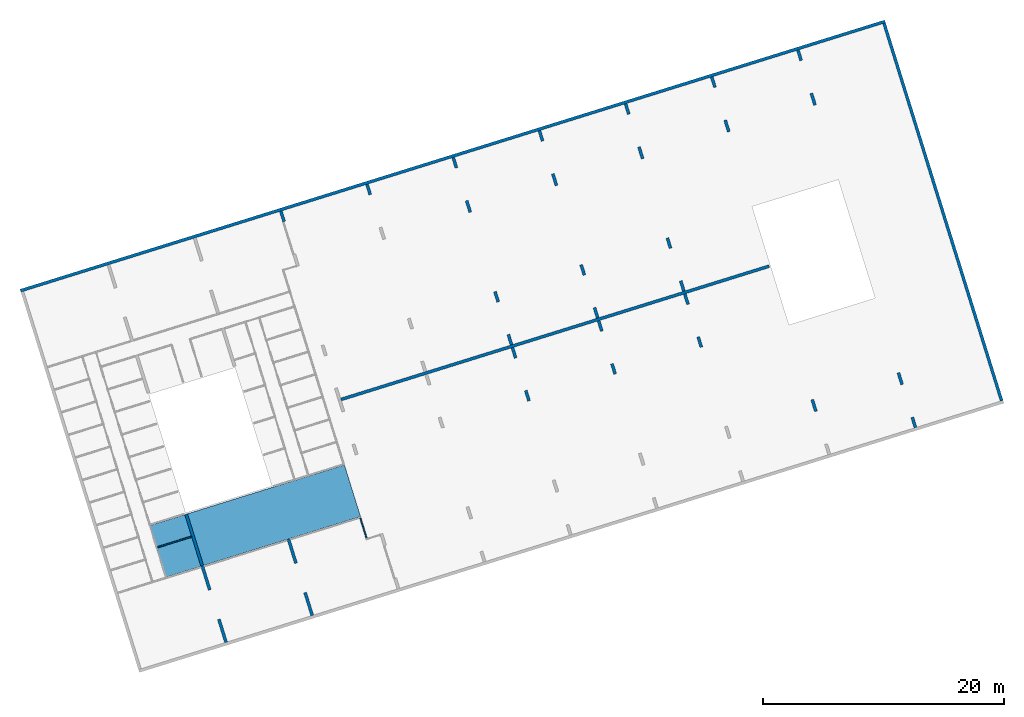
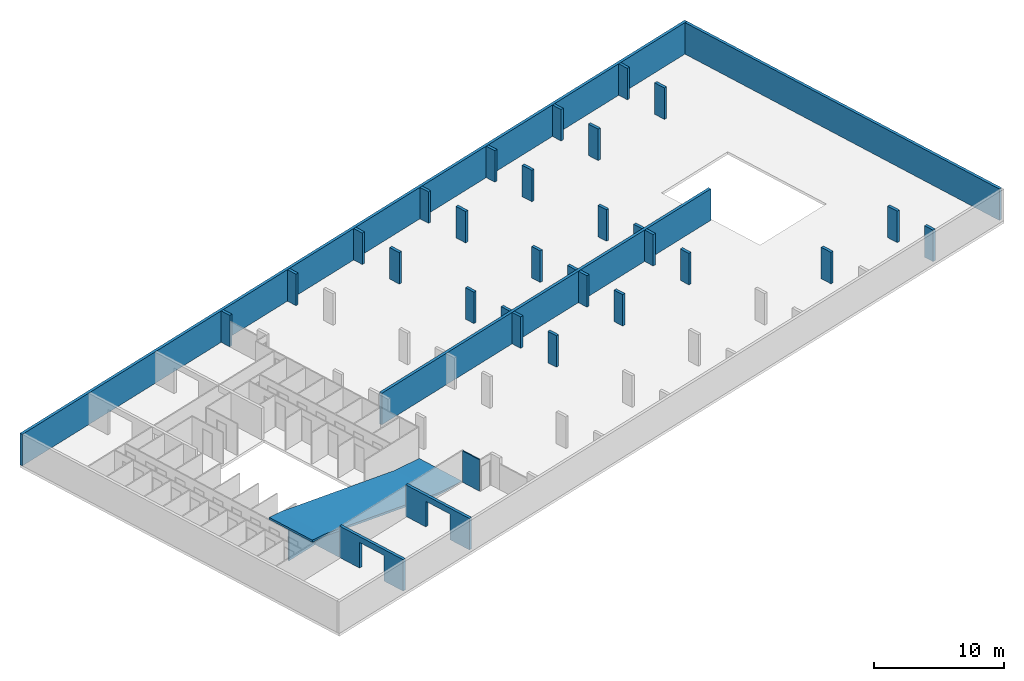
# One storey, part 3 of 7: 35 walls, 1 ramp, 3 openings.
"""IFC4 building model written with IfcOpenShell, lengths in metres."""

from ifc_helpers import new_model, entity, si_unit, converted_unit, direction, frame, origin, place, context, subcontext, project, spatial, indexed_curve, outline, extrude, polygons, material, type_object, element, save


model = new_model("IFC4")

# Units and contexts
model_context = context("Model", 3, precision=1e-05, world=origin(), true_north=direction((6.12323399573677e-17, 1.0)))
body_context = subcontext(model_context, "Body", "Model", "MODEL_VIEW")
ifc_project = project(units=[si_unit("LENGTHUNIT", "METRE"), si_unit("AREAUNIT", "SQUARE_METRE"), si_unit("VOLUMEUNIT", "CUBIC_METRE"), converted_unit("PLANEANGLEUNIT", "DEGREE", entity("IfcPlaneAngleMeasure", 0.0174532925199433), si_unit("PLANEANGLEUNIT", "RADIAN"), dimensions=[0, 0, 0, 0, 0, 0, 0])], contexts=[model_context])

# Site, building, storey
site_placement = place(None, frame((13.1347999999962, 11.9886000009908, 0.0), z_axis=(0.0, 0.0, 1.0), x_axis=(0.954770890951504, 0.297342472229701, 0.0)))
site = spatial("IfcSite", under=ifc_project, at=site_placement, Name="Schiehaven", CompositionType="ELEMENT")
building_placement = place(site_placement, origin())
building = spatial("IfcBuilding", under=site, at=building_placement, Name="VORM huis", CompositionType="ELEMENT")
storey_placement = place(building_placement, frame((0.0, 0.0, -3.2)))
storey = spatial("IfcBuildingStorey", under=building, at=storey_placement, Name="-1 kelder", CompositionType="ELEMENT", Elevation=-3.2)

# Walls
ifc_material_1 = material(Name="beton_gewapend_ihw", Category="Miscellaneous")
wall_type_1 = type_object("IfcWallType", Name="Basic Wall:28_WA_skelet_keerwand 250mm_gen", PredefinedType="STANDARD")
wall_1_placement = place(storey_placement, frame((80.1250000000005, 33.5999999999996, 0.0), z_axis=(0.0, 0.0, 1.0), x_axis=(-1.0, 0.0, 0.0)))
element("IfcWall", 1, at=wall_1_placement, inside=storey, type_object=wall_type_1, material=ifc_material_1, Name="Constructieve keerwand", ObjectType="Wand", PredefinedType="NOTDEFINED", context=body_context, shape_type="SweptSolid", body=[
    extrude(outline(indexed_curve([(75.2500000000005, 0.125000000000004), (-8.09239413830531e-16, 0.125000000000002), (8.09239413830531e-16, -0.125000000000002), (75.2500000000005, -0.125), (75.2500000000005, 0.125000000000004)], self_intersect=False)), origin(), (0.0, 0.0, 1.0), 2.95),
])
wall_2_placement = place(storey_placement, frame((80.0, 0.624999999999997, 0.0), z_axis=(0.0, 0.0, 1.0), x_axis=(0.0, 1.0, 0.0)))
element("IfcWall", 2, at=wall_2_placement, inside=storey, type_object=wall_type_1, material=ifc_material_1, Name="Constructieve keerwand", ObjectType="Wand", PredefinedType="NOTDEFINED", context=body_context, shape_type="SweptSolid", body=[
    extrude(outline(indexed_curve([(32.8499999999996, 0.125000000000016), (-2.9990862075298e-16, 0.125000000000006), (2.9990862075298e-16, -0.125000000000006), (32.8499999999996, -0.124999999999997), (32.8499999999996, 0.125000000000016)], self_intersect=False)), origin(), (0.0, 0.0, 1.0), 2.95),
])
wall_type_2 = type_object("IfcWallType", Name="Basic Wall:28_WA_skelet_wand 250mm_gen", PredefinedType="STANDARD")
wall_3_placement = place(storey_placement, frame((27.6250000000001, 17.0499999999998, 0.0)))
element("IfcWall", 3, at=wall_3_placement, inside=storey, type_object=wall_type_2, material=ifc_material_1, Name="Constructieve wand", ObjectType="Wand", PredefinedType="NOTDEFINED", context=body_context, shape_type="SweptSolid", body=[
    extrude(outline(indexed_curve([(37.25, 0.125), (0.0, 0.125), (0.0, -0.125), (37.25, -0.125), (37.25, 0.125)], self_intersect=False)), origin(), (0.0, 0.0, 1.0), 2.95),
])

# Wall, opening
wall_4_placement = place(storey_placement, frame((12.5, 0.624999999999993, 0.0), z_axis=(0.0, 0.0, 1.0), x_axis=(0.0, 1.0, 0.0)))
wall_4 = element("IfcWall", 4, at=wall_4_placement, inside=storey, type_object=wall_type_2, material=ifc_material_1, Name="Constructieve wand", ObjectType="Wand", PredefinedType="NOTDEFINED", context=body_context, shape_type="Tessellation", body=[
    polygons([(6.65000000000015, -0.124999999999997, 0.0), (6.65000000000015, -0.124999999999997, 2.95), (1.21822552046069e-15, -0.124999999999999, 2.95), (1.35358391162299e-15, -0.124999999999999, 0.0), (2.00000000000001, -0.124999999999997, 0.0), (2.00000000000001, -0.124999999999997, 2.4), (4.55000000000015, -0.124999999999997, 2.4), (4.55000000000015, -0.124999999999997, 0.0), (6.65000000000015, 0.125000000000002, 2.95), (6.65000000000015, 0.125000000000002, 0.0), (4.55000000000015, 0.125000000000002, 0.0), (4.55000000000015, 0.125000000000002, 2.4), (2.00000000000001, 0.125000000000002, 2.4), (2.00000000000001, 0.125000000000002, 0.0), (1.35358391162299e-16, 0.125000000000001, 0.0), (0.0, 0.125000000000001, 2.95)], [[[1, 2, 3, 4, 5, 6, 7, 8]], [[9, 10, 11, 12, 13, 14, 15, 16]], [[4, 15, 14, 5]], [[2, 1, 10, 9]], [[3, 2, 9, 16]], [[4, 3, 16, 15]], [[6, 13, 12, 7]], [[13, 6, 5, 14]], [[7, 12, 11, 8]], [[10, 1, 8, 11]]], closed=True),
])
opening_1_placement = place(wall_4_placement, origin())
element("IfcOpeningElement", 5, at=opening_1_placement, cuts=wall_4, Name="Constructieve wand", PredefinedType="OPENING", context=body_context, shape_type="SweptSolid", body=[
    extrude(outline(indexed_curve([(-1.2, -1.27500000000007), (1.2, -1.27500000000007), (1.2, 1.27500000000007), (-1.2, 1.27500000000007), (-1.2, -1.27500000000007)], self_intersect=False)), frame((3.27500000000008, -0.124999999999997, 1.2), z_axis=(0.0, 1.0, 0.0), x_axis=(0.0, 0.0, -1.0)), (0.0, 0.0, 1.0), 0.249999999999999),
])

# Walls
wall_5_placement = place(storey_placement, frame((42.5000000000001, 12.2949999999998, 0.0), z_axis=(0.0, 0.0, 1.0), x_axis=(0.0, 1.0, 0.0)))
element("IfcWall", 6, at=wall_5_placement, inside=storey, type_object=wall_type_2, material=ifc_material_1, Name="Constructieve wand", ObjectType="Wand", PredefinedType="NOTDEFINED", context=body_context, shape_type="SweptSolid", body=[
    extrude(outline(indexed_curve([(0.900000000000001, 0.124999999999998), (0.0, 0.124999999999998), (0.0, -0.124999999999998), (0.900000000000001, -0.124999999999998), (0.900000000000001, 0.124999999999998)], self_intersect=False)), origin(), (0.0, 0.0, 1.0), 2.95),
])
wall_6_placement = place(storey_placement, frame((42.5000000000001, 16.0249999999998, 0.0), z_axis=(0.0, 0.0, 1.0), x_axis=(0.0, 1.0, 0.0)))
element("IfcWall", 7, at=wall_6_placement, inside=storey, type_object=wall_type_2, material=ifc_material_1, Name="Constructieve wand", ObjectType="Wand", PredefinedType="NOTDEFINED", context=body_context, shape_type="SweptSolid", body=[
    extrude(outline(indexed_curve([(0.900000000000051, 0.124999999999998), (0.0, 0.124999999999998), (0.0, -0.124999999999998), (0.900000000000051, -0.124999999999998), (0.900000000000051, 0.124999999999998)], self_intersect=False)), origin(), (0.0, 0.0, 1.0), 2.95),
])
wall_7_placement = place(storey_placement, frame((50.0, 12.2949999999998, 0.0), z_axis=(0.0, 0.0, 1.0), x_axis=(0.0, 1.0, 0.0)))
element("IfcWall", 8, at=wall_7_placement, inside=storey, type_object=wall_type_2, material=ifc_material_1, Name="Constructieve wand", ObjectType="Wand", PredefinedType="NOTDEFINED", context=body_context, shape_type="SweptSolid", body=[
    extrude(outline(indexed_curve([(0.900000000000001, 0.124999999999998), (0.0, 0.124999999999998), (0.0, -0.124999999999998), (0.900000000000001, -0.124999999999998), (0.900000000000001, 0.124999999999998)], self_intersect=False)), origin(), (0.0, 0.0, 1.0), 2.95),
])
wall_8_placement = place(storey_placement, frame((50.0, 16.0249999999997, 0.0), z_axis=(0.0, 0.0, 1.0), x_axis=(0.0, 1.0, 0.0)))
element("IfcWall", 9, at=wall_8_placement, inside=storey, type_object=wall_type_2, material=ifc_material_1, Name="Constructieve wand", ObjectType="Wand", PredefinedType="NOTDEFINED", context=body_context, shape_type="SweptSolid", body=[
    extrude(outline(indexed_curve([(0.900000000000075, 0.124999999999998), (0.0, 0.124999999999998), (0.0, -0.124999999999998), (0.900000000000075, -0.124999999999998), (0.900000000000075, 0.124999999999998)], self_intersect=False)), origin(), (0.0, 0.0, 1.0), 2.95),
])
wall_9_placement = place(storey_placement, frame((57.5, 12.2949999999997, 0.0), z_axis=(0.0, 0.0, 1.0), x_axis=(0.0, 1.0, 0.0)))
element("IfcWall", 10, at=wall_9_placement, inside=storey, type_object=wall_type_2, material=ifc_material_1, Name="Constructieve wand", ObjectType="Wand", PredefinedType="NOTDEFINED", context=body_context, shape_type="SweptSolid", body=[
    extrude(outline(indexed_curve([(0.900000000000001, 0.124999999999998), (0.0, 0.124999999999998), (0.0, -0.124999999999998), (0.900000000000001, -0.124999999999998), (0.900000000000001, 0.124999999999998)], self_intersect=False)), origin(), (0.0, 0.0, 1.0), 2.95),
])
wall_10_placement = place(storey_placement, frame((57.5, 16.0249999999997, 0.0), z_axis=(0.0, 0.0, 1.0), x_axis=(0.0, 1.0, 0.0)))
element("IfcWall", 11, at=wall_10_placement, inside=storey, type_object=wall_type_2, material=ifc_material_1, Name="Constructieve wand", ObjectType="Wand", PredefinedType="NOTDEFINED", context=body_context, shape_type="SweptSolid", body=[
    extrude(outline(indexed_curve([(0.900000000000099, 0.124999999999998), (0.0, 0.124999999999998), (0.0, -0.124999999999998), (0.900000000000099, -0.124999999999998), (0.900000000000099, 0.124999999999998)], self_intersect=False)), origin(), (0.0, 0.0, 1.0), 2.95),
])
wall_11_placement = place(storey_placement, frame((65.0, 4.37499999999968, 0.0), z_axis=(0.0, 0.0, 1.0), x_axis=(0.0, 1.0, 0.0)))
element("IfcWall", 12, at=wall_11_placement, inside=storey, type_object=wall_type_2, material=ifc_material_1, Name="Constructieve wand", ObjectType="Wand", PredefinedType="NOTDEFINED", context=body_context, shape_type="SweptSolid", body=[
    extrude(outline(indexed_curve([(1.02499999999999, 0.124999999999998), (0.0, 0.124999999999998), (0.0, -0.124999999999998), (1.02499999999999, -0.124999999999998), (1.02499999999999, 0.124999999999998)], self_intersect=False)), origin(), (0.0, 0.0, 1.0), 2.95),
])
wall_12_placement = place(storey_placement, frame((42.5000000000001, 21.8050000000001, 0.0), z_axis=(0.0, 0.0, 1.0), x_axis=(0.0, -1.0, 0.0)))
element("IfcWall", 13, at=wall_12_placement, inside=storey, type_object=wall_type_2, material=ifc_material_1, Name="Constructieve wand", ObjectType="Wand", PredefinedType="NOTDEFINED", context=body_context, shape_type="SweptSolid", body=[
    extrude(outline(indexed_curve([(0.899999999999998, 0.125000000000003), (-8.09239413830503e-16, 0.124999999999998), (8.09239413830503e-16, -0.124999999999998), (0.9, -0.124999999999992), (0.899999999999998, 0.125000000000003)], self_intersect=False)), origin(), (0.0, 0.0, 1.0), 2.95),
])
wall_13_placement = place(storey_placement, frame((42.5000000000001, 18.0750000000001, 0.0), z_axis=(0.0, 0.0, 1.0), x_axis=(0.0, -1.0, 0.0)))
element("IfcWall", 14, at=wall_13_placement, inside=storey, type_object=wall_type_2, material=ifc_material_1, Name="Constructieve wand", ObjectType="Wand", PredefinedType="NOTDEFINED", context=body_context, shape_type="SweptSolid", body=[
    extrude(outline(indexed_curve([(0.900000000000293, 0.125000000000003), (-8.09239413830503e-16, 0.124999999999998), (8.09239413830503e-16, -0.124999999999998), (0.900000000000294, -0.124999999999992), (0.900000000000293, 0.125000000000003)], self_intersect=False)), origin(), (0.0, 0.0, 1.0), 2.95),
])
wall_14_placement = place(storey_placement, frame((42.5000000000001, 29.7250000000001, 0.0), z_axis=(0.0, 0.0, 1.0), x_axis=(0.0, -1.0, 0.0)))
element("IfcWall", 15, at=wall_14_placement, inside=storey, type_object=wall_type_2, material=ifc_material_1, Name="Constructieve wand", ObjectType="Wand", PredefinedType="NOTDEFINED", context=body_context, shape_type="SweptSolid", body=[
    extrude(outline(indexed_curve([(1.025, 0.124999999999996), (-8.09239413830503e-16, 0.124999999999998), (8.09239413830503e-16, -0.124999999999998), (1.025, -0.125), (1.025, 0.124999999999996)], self_intersect=False)), origin(), (0.0, 0.0, 1.0), 2.95),
])
wall_15_placement = place(storey_placement, frame((50.0, 21.8050000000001, 0.0), z_axis=(0.0, 0.0, 1.0), x_axis=(0.0, -1.0, 0.0)))
element("IfcWall", 16, at=wall_15_placement, inside=storey, type_object=wall_type_2, material=ifc_material_1, Name="Constructieve wand", ObjectType="Wand", PredefinedType="NOTDEFINED", context=body_context, shape_type="SweptSolid", body=[
    extrude(outline(indexed_curve([(0.900000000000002, 0.125000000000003), (-8.09239413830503e-16, 0.124999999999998), (8.09239413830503e-16, -0.124999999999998), (0.900000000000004, -0.124999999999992), (0.900000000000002, 0.125000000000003)], self_intersect=False)), origin(), (0.0, 0.0, 1.0), 2.95),
])
wall_16_placement = place(storey_placement, frame((50.0, 18.0750000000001, 0.0), z_axis=(0.0, 0.0, 1.0), x_axis=(0.0, -1.0, 0.0)))
element("IfcWall", 17, at=wall_16_placement, inside=storey, type_object=wall_type_2, material=ifc_material_1, Name="Constructieve wand", ObjectType="Wand", PredefinedType="NOTDEFINED", context=body_context, shape_type="SweptSolid", body=[
    extrude(outline(indexed_curve([(0.900000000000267, 0.125000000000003), (-8.09239413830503e-16, 0.124999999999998), (8.09239413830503e-16, -0.124999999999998), (0.900000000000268, -0.124999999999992), (0.900000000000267, 0.125000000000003)], self_intersect=False)), origin(), (0.0, 0.0, 1.0), 2.95),
])
wall_17_placement = place(storey_placement, frame((50.0, 29.7250000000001, 0.0), z_axis=(0.0, 0.0, 1.0), x_axis=(0.0, -1.0, 0.0)))
element("IfcWall", 18, at=wall_17_placement, inside=storey, type_object=wall_type_2, material=ifc_material_1, Name="Constructieve wand", ObjectType="Wand", PredefinedType="NOTDEFINED", context=body_context, shape_type="SweptSolid", body=[
    extrude(outline(indexed_curve([(1.02499999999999, 0.124999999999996), (-8.09239413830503e-16, 0.124999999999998), (8.09239413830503e-16, -0.124999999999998), (1.02499999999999, -0.125), (1.02499999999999, 0.124999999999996)], self_intersect=False)), origin(), (0.0, 0.0, 1.0), 2.95),
])
wall_18_placement = place(storey_placement, frame((57.5, 21.805, 0.0), z_axis=(0.0, 0.0, 1.0), x_axis=(0.0, -1.0, 0.0)))
element("IfcWall", 19, at=wall_18_placement, inside=storey, type_object=wall_type_2, material=ifc_material_1, Name="Constructieve wand", ObjectType="Wand", PredefinedType="NOTDEFINED", context=body_context, shape_type="SweptSolid", body=[
    extrude(outline(indexed_curve([(0.899999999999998, 0.125000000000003), (-8.09239413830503e-16, 0.124999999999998), (8.09239413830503e-16, -0.124999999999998), (0.9, -0.124999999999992), (0.899999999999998, 0.125000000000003)], self_intersect=False)), origin(), (0.0, 0.0, 1.0), 2.95),
])
wall_19_placement = place(storey_placement, frame((57.5, 18.0750000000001, 0.0), z_axis=(0.0, 0.0, 1.0), x_axis=(0.0, -1.0, 0.0)))
element("IfcWall", 20, at=wall_19_placement, inside=storey, type_object=wall_type_2, material=ifc_material_1, Name="Constructieve wand", ObjectType="Wand", PredefinedType="NOTDEFINED", context=body_context, shape_type="SweptSolid", body=[
    extrude(outline(indexed_curve([(0.900000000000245, 0.125000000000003), (-8.09239413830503e-16, 0.124999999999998), (8.09239413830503e-16, -0.124999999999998), (0.900000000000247, -0.124999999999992), (0.900000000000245, 0.125000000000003)], self_intersect=False)), origin(), (0.0, 0.0, 1.0), 2.95),
])
wall_20_placement = place(storey_placement, frame((57.5, 29.7250000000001, 0.0), z_axis=(0.0, 0.0, 1.0), x_axis=(0.0, -1.0, 0.0)))
element("IfcWall", 21, at=wall_20_placement, inside=storey, type_object=wall_type_2, material=ifc_material_1, Name="Constructieve wand", ObjectType="Wand", PredefinedType="NOTDEFINED", context=body_context, shape_type="SweptSolid", body=[
    extrude(outline(indexed_curve([(1.02499999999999, 0.124999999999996), (-8.09239413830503e-16, 0.124999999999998), (8.09239413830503e-16, -0.124999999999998), (1.02499999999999, -0.125), (1.02499999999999, 0.124999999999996)], self_intersect=False)), origin(), (0.0, 0.0, 1.0), 2.95),
])
wall_21_placement = place(storey_placement, frame((65.0, 29.7250000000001, 0.0), z_axis=(0.0, 0.0, 1.0), x_axis=(0.0, -1.0, 0.0)))
element("IfcWall", 22, at=wall_21_placement, inside=storey, type_object=wall_type_2, material=ifc_material_1, Name="Constructieve wand", ObjectType="Wand", PredefinedType="NOTDEFINED", context=body_context, shape_type="SweptSolid", body=[
    extrude(outline(indexed_curve([(1.025, 0.124999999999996), (-8.09239413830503e-16, 0.124999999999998), (8.09239413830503e-16, -0.124999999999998), (1.025, -0.125), (1.025, 0.124999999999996)], self_intersect=False)), origin(), (0.0, 0.0, 1.0), 2.95),
])
wall_22_placement = place(storey_placement, frame((35.0, 32.5749999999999, 0.0), z_axis=(0.0, 0.0, 1.0), x_axis=(0.0, 1.0, 0.0)))
element("IfcWall", 23, at=wall_22_placement, inside=storey, type_object=wall_type_2, material=ifc_material_1, Name="Constructieve wand", ObjectType="Wand", PredefinedType="NOTDEFINED", context=body_context, shape_type="SweptSolid", body=[
    extrude(outline(indexed_curve([(0.899999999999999, 0.125000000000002), (3.45531544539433e-17, 0.125000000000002), (-3.45531544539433e-17, -0.125000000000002), (0.899999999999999, -0.125000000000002), (0.899999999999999, 0.125000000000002)], self_intersect=False)), origin(), (0.0, 0.0, 1.0), 2.95),
])
wall_23_placement = place(storey_placement, frame((42.5000000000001, 32.5749999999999, 0.0), z_axis=(0.0, 0.0, 1.0), x_axis=(0.0, 1.0, 0.0)))
element("IfcWall", 24, at=wall_23_placement, inside=storey, type_object=wall_type_2, material=ifc_material_1, Name="Constructieve wand", ObjectType="Wand", PredefinedType="NOTDEFINED", context=body_context, shape_type="SweptSolid", body=[
    extrude(outline(indexed_curve([(0.899999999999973, 0.124999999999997), (3.45531544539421e-17, 0.124999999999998), (-3.45531544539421e-17, -0.124999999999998), (0.899999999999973, -0.124999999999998), (0.899999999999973, 0.124999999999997)], self_intersect=False)), origin(), (0.0, 0.0, 1.0), 2.95),
])
wall_24_placement = place(storey_placement, frame((50.0, 32.5749999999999, 0.0), z_axis=(0.0, 0.0, 1.0), x_axis=(0.0, 1.0, 0.0)))
element("IfcWall", 25, at=wall_24_placement, inside=storey, type_object=wall_type_2, material=ifc_material_1, Name="Constructieve wand", ObjectType="Wand", PredefinedType="NOTDEFINED", context=body_context, shape_type="SweptSolid", body=[
    extrude(outline(indexed_curve([(0.899999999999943, 0.124999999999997), (3.45531544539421e-17, 0.124999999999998), (-3.45531544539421e-17, -0.124999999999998), (0.899999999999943, -0.124999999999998), (0.899999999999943, 0.124999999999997)], self_intersect=False)), origin(), (0.0, 0.0, 1.0), 2.95),
])
wall_25_placement = place(storey_placement, frame((57.5, 32.5749999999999, 0.0), z_axis=(0.0, 0.0, 1.0), x_axis=(0.0, 1.0, 0.0)))
element("IfcWall", 26, at=wall_25_placement, inside=storey, type_object=wall_type_2, material=ifc_material_1, Name="Constructieve wand", ObjectType="Wand", PredefinedType="NOTDEFINED", context=body_context, shape_type="SweptSolid", body=[
    extrude(outline(indexed_curve([(0.899999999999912, 0.124999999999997), (3.45531544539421e-17, 0.124999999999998), (-3.45531544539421e-17, -0.124999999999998), (0.899999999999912, -0.124999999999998), (0.899999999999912, 0.124999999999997)], self_intersect=False)), origin(), (0.0, 0.0, 1.0), 2.95),
])
wall_26_placement = place(storey_placement, frame((65.0, 32.5749999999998, 0.0), z_axis=(0.0, 0.0, 1.0), x_axis=(0.0, 1.0, 0.0)))
element("IfcWall", 27, at=wall_26_placement, inside=storey, type_object=wall_type_2, material=ifc_material_1, Name="Constructieve wand", ObjectType="Wand", PredefinedType="NOTDEFINED", context=body_context, shape_type="SweptSolid", body=[
    extrude(outline(indexed_curve([(0.899999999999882, 0.124999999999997), (3.45531544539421e-17, 0.124999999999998), (-3.45531544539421e-17, -0.124999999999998), (0.899999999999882, -0.124999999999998), (0.899999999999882, 0.124999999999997)], self_intersect=False)), origin(), (0.0, 0.0, 1.0), 2.95),
])
wall_27_placement = place(storey_placement, frame((27.5000000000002, 32.575, 0.0), z_axis=(0.0, 0.0, 1.0), x_axis=(0.0, 1.0, 0.0)))
element("IfcWall", 28, at=wall_27_placement, inside=storey, type_object=wall_type_2, material=ifc_material_1, Name="Constructieve wand", ObjectType="Wand", PredefinedType="NOTDEFINED", context=body_context, shape_type="SweptSolid", body=[
    extrude(outline(indexed_curve([(0.900000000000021, 0.125000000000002), (3.45531544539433e-17, 0.125000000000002), (-3.45531544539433e-17, -0.125000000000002), (0.900000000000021, -0.125000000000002), (0.900000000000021, 0.125000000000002)], self_intersect=False)), origin(), (0.0, 0.0, 1.0), 2.95),
])

# Wall, opening
wall_28_placement = place(storey_placement, frame((20.0, 7.27500000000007, 0.0), z_axis=(0.0, 0.0, 1.0), x_axis=(0.0, -1.0, 0.0)))
wall_28 = element("IfcWall", 29, at=wall_28_placement, inside=storey, type_object=wall_type_2, material=ifc_material_1, Name="Constructieve wand", ObjectType="Wand", PredefinedType="NOTDEFINED", context=body_context, shape_type="Tessellation", body=[
    polygons([(6.65000000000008, -0.124999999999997, 0.0), (6.65000000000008, -0.124999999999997, 2.95), (1.08286712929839e-15, -0.124999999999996, 2.95), (1.08286712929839e-15, -0.124999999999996, 0.0), (2.09999999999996, -0.124999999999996, 0.0), (2.09999999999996, -0.124999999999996, 2.4), (4.6500000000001, -0.124999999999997, 2.4), (4.6500000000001, -0.124999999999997, 0.0), (6.65000000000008, 0.125000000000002, 2.95), (6.65000000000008, 0.125000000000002, 0.0), (4.6500000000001, 0.125000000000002, 0.0), (4.6500000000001, 0.125000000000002, 2.4), (2.09999999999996, 0.125000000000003, 2.4), (2.09999999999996, 0.125000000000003, 0.0), (-1.08286712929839e-15, 0.125000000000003, 0.0), (-1.08286712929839e-15, 0.125000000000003, 2.95)], [[[1, 2, 3, 4, 5, 6, 7, 8]], [[9, 10, 11, 12, 13, 14, 15, 16]], [[4, 15, 14, 5]], [[3, 2, 9, 16]], [[4, 3, 16, 15]], [[2, 1, 10, 9]], [[6, 13, 12, 7]], [[13, 6, 5, 14]], [[7, 12, 11, 8]], [[10, 1, 8, 11]]], closed=True),
])
opening_2_placement = place(wall_28_placement, origin())
element("IfcOpeningElement", 30, at=opening_2_placement, cuts=wall_28, Name="Constructieve wand", PredefinedType="OPENING", context=body_context, shape_type="SweptSolid", body=[
    extrude(outline(indexed_curve([(-1.2, -1.27500000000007), (1.2, -1.27500000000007), (1.2, 1.27500000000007), (-1.2, 1.27500000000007), (-1.2, -1.27500000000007)], self_intersect=False)), frame((3.37500000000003, -0.125000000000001, 1.2), z_axis=(0.0, 1.0, 0.0), x_axis=(0.0, 0.0, -1.0)), (0.0, 0.0, 1.0), 0.250000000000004),
])

# Walls
wall_29_placement = place(storey_placement, frame((72.4999999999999, 4.37499999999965, 0.0), z_axis=(0.0, 0.0, 1.0), x_axis=(0.0, 1.0, 0.0)))
element("IfcWall", 31, at=wall_29_placement, inside=storey, type_object=wall_type_2, material=ifc_material_1, Name="Constructieve wand", ObjectType="Wand", PredefinedType="NOTDEFINED", context=body_context, shape_type="SweptSolid", body=[
    extrude(outline(indexed_curve([(1.02499999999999, 0.124999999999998), (0.0, 0.124999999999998), (0.0, -0.124999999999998), (1.02499999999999, -0.124999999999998), (1.02499999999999, 0.124999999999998)], self_intersect=False)), origin(), (0.0, 0.0, 1.0), 2.95),
])
wall_30_placement = place(storey_placement, frame((72.4999999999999, 1.52499999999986, 0.0), z_axis=(0.0, 0.0, 1.0), x_axis=(0.0, -1.0, 0.0)))
element("IfcWall", 32, at=wall_30_placement, inside=storey, type_object=wall_type_2, material=ifc_material_1, Name="Constructieve wand", ObjectType="Wand", PredefinedType="NOTDEFINED", context=body_context, shape_type="SweptSolid", body=[
    extrude(outline(indexed_curve([(0.899999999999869, 0.124999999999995), (2.39074561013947e-16, 0.124999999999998), (-2.39074561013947e-16, -0.124999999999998), (0.899999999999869, -0.125), (0.899999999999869, 0.124999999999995)], self_intersect=False)), origin(), (0.0, 0.0, 1.0), 2.95),
])
wall_31_placement = place(storey_placement, frame((72.5, 29.725, 0.0), z_axis=(0.0, 0.0, 1.0), x_axis=(0.0, -1.0, 0.0)))
element("IfcWall", 33, at=wall_31_placement, inside=storey, type_object=wall_type_2, material=ifc_material_1, Name="Constructieve wand", ObjectType="Wand", PredefinedType="NOTDEFINED", context=body_context, shape_type="SweptSolid", body=[
    extrude(outline(indexed_curve([(1.025, 0.124999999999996), (-8.09239413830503e-16, 0.124999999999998), (8.09239413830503e-16, -0.124999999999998), (1.025, -0.125), (1.025, 0.124999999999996)], self_intersect=False)), origin(), (0.0, 0.0, 1.0), 2.95),
])
wall_32_placement = place(storey_placement, frame((72.5, 32.5749999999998, 0.0), z_axis=(0.0, 0.0, 1.0), x_axis=(0.0, 1.0, 0.0)))
element("IfcWall", 34, at=wall_32_placement, inside=storey, type_object=wall_type_2, material=ifc_material_1, Name="Constructieve wand", ObjectType="Wand", PredefinedType="NOTDEFINED", context=body_context, shape_type="SweptSolid", body=[
    extrude(outline(indexed_curve([(0.89999999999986, 0.124999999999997), (3.45531544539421e-17, 0.124999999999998), (-3.45531544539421e-17, -0.124999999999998), (0.89999999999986, -0.124999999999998), (0.89999999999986, 0.124999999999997)], self_intersect=False)), origin(), (0.0, 0.0, 1.0), 2.95),
])
wall_33_placement = place(storey_placement, frame((12.5, 7.27500000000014, 0.0), z_axis=(0.0, 0.0, 1.0), x_axis=(0.0, 1.0, 0.0)))
element("IfcWall", 35, at=wall_33_placement, inside=storey, type_object=wall_type_2, material=ifc_material_1, Name="Constructieve wand", ObjectType="Wand", PredefinedType="NOTDEFINED", context=body_context, shape_type="Tessellation", body=[
    polygons([(-1.08286712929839e-15, -0.124999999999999, 0.0), (4.5, -0.124999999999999, 0.0), (4.5, -0.124999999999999, 2.43071485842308), (-1.08286712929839e-15, -0.124999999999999, 2.43071485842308), (-1.08286712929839e-15, 0.125, 0.0), (-1.08286712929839e-15, 0.125, 2.48446469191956), (4.5, 0.125, 2.48446469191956), (4.5, 0.125, 0.0)], [[[1, 2, 3, 4]], [[5, 6, 7, 8]], [[2, 1, 5, 8]], [[3, 2, 8, 7]], [[1, 4, 6, 5]], [[4, 3, 7, 6]]], closed=True),
])

# Wall, opening
ifc_material_2 = material(Name="ntb_ntb_ntb", Category="Miscellaneous")
wall_type_3 = type_object("IfcWallType", Name="Basic Wall:22_WA_afbouw_binnenwand 100mm_gen", PredefinedType="STANDARD")
wall_34_placement = place(storey_placement, frame((26.2250000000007, 5.39999999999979, 0.0), z_axis=(0.0, 0.0, 1.0), x_axis=(0.0, 1.0, 0.0)))
wall_34 = element("IfcWall", 36, at=wall_34_placement, inside=storey, type_object=wall_type_3, material=ifc_material_2, Name="Binnenwand", ObjectType="Wand", PredefinedType="NOTDEFINED", context=body_context, shape_type="Tessellation", body=[
    polygons([(8.66293703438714e-15, -0.0500000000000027, 0.0), (1.77500000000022, -0.0500000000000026, 0.0), (1.77500000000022, -0.0500000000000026, 2.95), (8.66293703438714e-15, -0.0500000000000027, 2.95), (8.66293703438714e-15, -0.0499999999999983, 2.34999999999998), (0.0, 0.0500000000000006, 0.0), (0.0, 0.0500000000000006, 2.95), (1.77500000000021, 0.0500000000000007, 2.95), (1.77500000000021, 0.0500000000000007, 0.0)], [[[1, 2, 3, 4, 5]], [[6, 7, 8, 9]], [[2, 1, 6, 9]], [[4, 3, 8, 7]], [[3, 2, 9, 8]], [[1, 5, 4, 7, 6]]], closed=True),
])
opening_3_placement = place(wall_34_placement, origin())
element("IfcOpeningElement", 37, at=opening_3_placement, cuts=wall_34, Name="Vluchtdeur", PredefinedType="OPENING", context=body_context, shape_type="SweptSolid", body=[
    extrude(outline(indexed_curve([(-0.0499999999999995, -1.17499999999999), (0.0500000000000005, -1.17499999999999), (0.0500000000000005, 1.17499999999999), (-0.0499999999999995, 1.17499999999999), (-0.0499999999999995, -1.17499999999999)], self_intersect=False)), frame((-0.0499999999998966, -1.09999999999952, 1.17499999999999), z_axis=(0.0, 1.0, 0.0), x_axis=(1.0, 0.0, 0.0)), (0.0, 0.0, 1.0), 1.05),
])

# Wall
wall_35_placement = place(storey_placement, frame((9.39999999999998, 9.86071428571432, 0.0)))
element("IfcWall", 38, at=wall_35_placement, inside=storey, type_object=wall_type_3, material=ifc_material_2, Name="Binnenwand", ObjectType="Wand", PredefinedType="NOTDEFINED", context=body_context, shape_type="Tessellation", body=[
    polygons([(2.17809013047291e-16, -0.0500000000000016, 0.0), (2.97500000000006, -0.0499999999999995, 0.0), (2.97500000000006, -0.0499999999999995, 2.48446469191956), (0.80971278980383, -0.0499999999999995, 2.95), (2.17809013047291e-16, -0.0500000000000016, 2.95), (2.17809013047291e-16, -0.0500000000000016, 2.34999999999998), (1.68921215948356e-15, 0.0499999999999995, 0.0), (6.0634503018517e-16, 0.0499999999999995, 2.95), (0.80971278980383, 0.0500000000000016, 2.95), (2.97500000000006, 0.0500000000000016, 2.48446469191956), (2.97500000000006, 0.0500000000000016, 0.0)], [[[1, 2, 3, 4, 5, 6]], [[7, 8, 9, 10, 11]], [[1, 6, 5, 8, 7]], [[2, 1, 7, 11]], [[3, 2, 11, 10]], [[5, 4, 9, 8]], [[4, 3, 10, 9]]], closed=True),
])

# Ramp
ramp_type = type_object("IfcRampType", Name="24_GM_TLB_hellingbaan:Stalling", PredefinedType="NOTDEFINED")
ramp_placement = place(storey_placement, origin())
element("IfcRamp", 39, at=ramp_placement, inside=storey, type_object=ramp_type, material=ifc_material_1, Name="Hellingbaan", ObjectType="Vloer", PredefinedType="NOTDEFINED", context=body_context, shape_type="SweptSolid", body=[
    extrude(outline(indexed_curve([(-5.31245707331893, 0.0995774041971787), (-6.68969962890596, -0.0468054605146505), (-6.64742363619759, -0.243438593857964), (-6.18758312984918, -0.194563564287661), (-5.30185823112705, -0.100422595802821), (7.83285199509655, -0.100422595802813), (8.72665965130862, -0.00542253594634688), (10.5767382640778, 0.392343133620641), (7.82225315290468, 0.0995774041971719), (-4.81948136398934, 0.0995774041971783), (-5.31245707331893, 0.0995774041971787)], self_intersect=False)), frame((15.8520850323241, 7.27500000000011, 1.83961110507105), z_axis=(0.0, -1.0, 0.0), x_axis=(0.977659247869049, 0.0, -0.21019608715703)), (0.0, 0.0, -1.0), 4.5),
])

save(model, "model.ifc")
